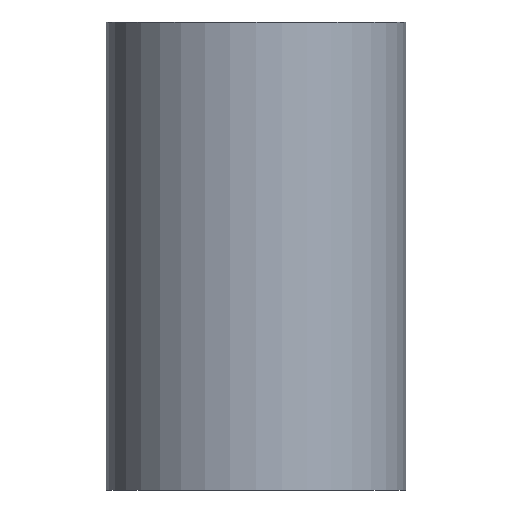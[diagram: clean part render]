
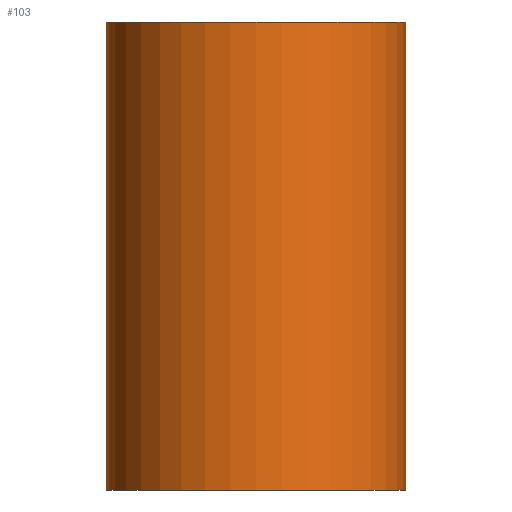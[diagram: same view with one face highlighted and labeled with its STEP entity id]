
A CAD part, left-side view. The second image highlights one B-rep face of the part: STEP entity #103.
In plain terms, the highlighted cylindrical face has radius 8 mm (diameter 16 mm), a partial arc.
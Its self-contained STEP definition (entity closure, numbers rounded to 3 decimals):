
#103=ADVANCED_FACE('',(#113),#109,.T.);
#109=CYLINDRICAL_SURFACE('',#188,8.);
#113=FACE_OUTER_BOUND('',#117,.T.);
#117=EDGE_LOOP('',(#133,#134,#135,#136));
#125=CIRCLE('',#186,8.);
#126=CIRCLE('',#187,8.);
#133=ORIENTED_EDGE('',*,*,#165,.T.);
#134=ORIENTED_EDGE('',*,*,#166,.F.);
#135=ORIENTED_EDGE('',*,*,#167,.F.);
#136=ORIENTED_EDGE('',*,*,#168,.T.);
#157=VERTEX_POINT('',#236);
#158=VERTEX_POINT('',#237);
#159=VERTEX_POINT('',#239);
#160=VERTEX_POINT('',#241);
#165=EDGE_CURVE('',#157,#158,#177,.T.);
#166=EDGE_CURVE('',#159,#158,#125,.T.);
#167=EDGE_CURVE('',#160,#159,#178,.T.);
#168=EDGE_CURVE('',#160,#157,#126,.T.);
#177=LINE('',#235,#181);
#178=LINE('',#240,#182);
#181=VECTOR('',#202,1.);
#182=VECTOR('',#205,1.);
#186=AXIS2_PLACEMENT_3D('',#238,#203,#204);
#187=AXIS2_PLACEMENT_3D('',#242,#206,#207);
#188=AXIS2_PLACEMENT_3D('',#243,#208,#209);
#202=DIRECTION('',(0.,0.,1.));
#203=DIRECTION('',(0.,0.,1.));
#204=DIRECTION('',(1.,0.,0.));
#205=DIRECTION('',(0.,0.,1.));
#206=DIRECTION('',(0.,0.,1.));
#207=DIRECTION('',(1.,0.,0.));
#208=DIRECTION('',(0.,0.,1.));
#209=DIRECTION('',(-1.,0.,0.));
#235=CARTESIAN_POINT('',(0.,-8.,0.));
#236=CARTESIAN_POINT('',(0.,-8.,0.));
#237=CARTESIAN_POINT('',(0.,-8.,25.));
#238=CARTESIAN_POINT('',(0.,0.,25.));
#239=CARTESIAN_POINT('',(0.,8.,25.));
#240=CARTESIAN_POINT('',(0.,8.,0.));
#241=CARTESIAN_POINT('',(0.,8.,0.));
#242=CARTESIAN_POINT('',(0.,0.,0.));
#243=CARTESIAN_POINT('',(0.,0.,0.));
